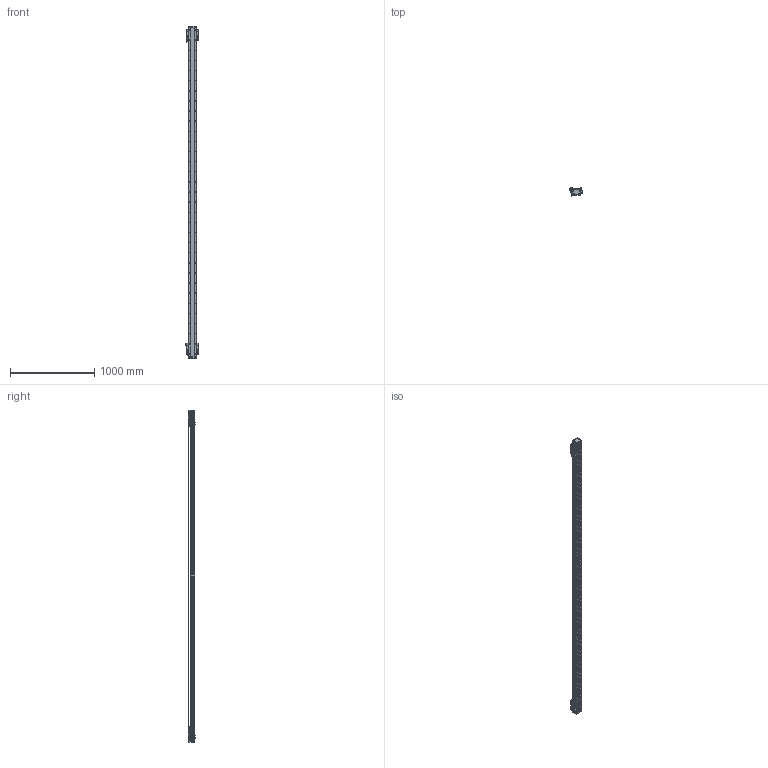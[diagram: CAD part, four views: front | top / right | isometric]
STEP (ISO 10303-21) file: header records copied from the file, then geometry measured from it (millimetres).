
FILE_DESCRIPTION (( 'STEP AP203' ), '1' );
FILE_NAME ('DA-B95-2-B15-T3560-C010-0.2 直线电机.STEP', '2023-05-06T06:50:56', ( '微软用户' ), ( '微软中国' ), 'SwSTEP 2.0', 'SolidWorks 2019', '' );
FILE_SCHEMA (( 'CONFIG_CONTROL_DESIGN' ));
Length unit declared in the file: millimetre
Products named in the file (34): 66245-BU95-V 幗紩賑怢; 葩璃 PM-Y45^DA-A95-B15-T-C010-0.2-N 眻盄萇儂; PM-T45 光电开关^DA-A95-B15-T-C010-0.2-N 直线电机; 复件 DA95-MFP-01 密封片^66245-BU95-V 滚珠滑台; 复件 DA95-DK-00 挡块^66245-BU95-V 滚珠滑台; 复件 DA95-B15 钢带盖板^DA-A95-B15-T-C010-0.2-N 直线电机; DA-A95-GYP-00 光电感应片^DA-A95-B15-T-C010-0.2-N 直线电机; 葩璃 DA95-B15-DP-A-00 菜えA^66245-BU95-V 幗紩賑怢; 复件 DA95-HK-GT-00 滑块钢轨^66245-BU95-V-00 一体化滑动台板; IU-BU95-L 菁釱絳寢; 66245-BU95-V-00 珨极趙賑雄怢啣; DA-B95-2-B15-T3560-C010-0.2 眻盄萇儂; 复件 复件 18252-0001-004-00 钢带端盖^DA-A95-B15-T-C010-0.2-N 直线电机; 复件 DKW-HXJ-JY-00 缓冲橡胶^DA-A95-B15-T-C010-0.2-N 直线电机; LMDK-2-R001-V5-L02-C1-F00，0.2M 读数头^DA-A95-B15-T-C010-0.2-N 直线电机_DMA-010-0.2; 复件 DA95-B15-YB-B-00 压板B^66245-BU95-V 滚珠滑台; B15 XD-U-02L ｴﾅﾕ､ｳﾟ^DA-A95-B15-T-C010-0.2-N ﾖｱﾏﾟｵ扈銈XD-U-02L; 复件 66245-BU95-HT-V-01 滑动台板^66245-BU95-V-00 一体化滑动台板; 复件 DKW-KGZ-ZJ-00 中间光电开关支架^DA-A95-B15-T-C010-0.2-N 直线电机; 复件 DKW-GYP-ZJ-00 中间光电感应片^DA-A95-B15-T-C010-0.2-N 直线电机; 复件 六角薄螺母 M3^DA-A95-B15-T-C010-0.2-N 直线电机_GB_FASTENER_NUT_STNAB M3-C; 葩璃 DA95-GT-T-00^IU-BU95-L 菁釱絳寢_DA95; 复件 复件 18252-0001-003-00 钢带拉块^DA-A95-B15-T-C010-0.2-N 直线电机; 葩璃 BKMA01-W060-TRL^DA-A95-B15-T-C010-0.2-N 眻盄萇儂; 复件 DA95-DB-00  挡板^66245-BU95-V 滚珠滑台; DA95-HXJ-00 缓冲橡胶^DA-A95-B15-T-C010-0.2-N 直线电机; 葩璃 BKM015-W060-C1-TP-DA-0.2^DA-A95-B15-T-C010-0.2-N 眻盄萇儂; 复件 复件 18252-0001-002-00 钢带垫块^DA-A95-B15-T-C010-0.2-N 直线电机; 复件 纯铜油杯 6x6mm^66245-BU95-V 滚珠滑台; 葩璃 DA95-B15-DP--B-00 菜えB^66245-BU95-V 幗紩賑怢; 复件 DA95-B15-YB-A-00 压板A^66245-BU95-V 滚珠滑台; IU-BU95-L-00 菁釱_L3900
Assembly tree (80 placements, depth 4):
  DA-B95-2-B15-T3560-C010-0.2 眻盄萇儂
    IU-BU95-L 菁釱絳寢
      IU-BU95-L-00 菁釱_L3900
      葩璃 DA95-GT-T-00^IU-BU95-L 菁釱絳寢_DA95  x2
    66245-BU95-V 幗紩賑怢
      66245-BU95-V-00 珨极趙賑雄怢啣
        复件 66245-BU95-HT-V-01 滑动台板^66245-BU95-V-00 一体化滑动台板
        复件 DA95-HK-GT-00 滑块钢轨^66245-BU95-V-00 一体化滑动台板  x2
      葩璃 DA95-B15-DP-A-00 菜えA^66245-BU95-V 幗紩賑怢
      复件 DA95-B15-YB-A-00 压板A^66245-BU95-V 滚珠滑台
      复件 DA95-B15-YB-B-00 压板B^66245-BU95-V 滚珠滑台
      复件 DA95-DB-00  挡板^66245-BU95-V 滚珠滑台  x4
      复件 DA95-DK-00 挡块^66245-BU95-V 滚珠滑台  x2
      复件 DA95-MFP-01 密封片^66245-BU95-V 滚珠滑台  x4
      复件 纯铜油杯 6x6mm^66245-BU95-V 滚珠滑台  x2
      葩璃 DA95-B15-DP--B-00 菜えB^66245-BU95-V 幗紩賑怢
    66245-BU95-V 幗紩賑怢
      66245-BU95-V-00 珨极趙賑雄怢啣
        复件 66245-BU95-HT-V-01 滑动台板^66245-BU95-V-00 一体化滑动台板
        复件 DA95-HK-GT-00 滑块钢轨^66245-BU95-V-00 一体化滑动台板  x2
      葩璃 DA95-B15-DP-A-00 菜えA^66245-BU95-V 幗紩賑怢
      复件 DA95-B15-YB-A-00 压板A^66245-BU95-V 滚珠滑台
      复件 DA95-B15-YB-B-00 压板B^66245-BU95-V 滚珠滑台
      复件 DA95-DB-00  挡板^66245-BU95-V 滚珠滑台  x4
      复件 DA95-DK-00 挡块^66245-BU95-V 滚珠滑台  x2
      复件 DA95-MFP-01 密封片^66245-BU95-V 滚珠滑台  x4
      复件 纯铜油杯 6x6mm^66245-BU95-V 滚珠滑台  x2
      葩璃 DA95-B15-DP--B-00 菜えB^66245-BU95-V 幗紩賑怢
    DA-A95-GYP-00 光电感应片^DA-A95-B15-T-C010-0.2-N 直线电机  x2
    LMDK-2-R001-V5-L02-C1-F00，0.2M 读数头^DA-A95-B15-T-C010-0.2-N 直线电机_DMA-010-0.2  x2
    复件 DKW-KGZ-ZJ-00 中间光电开关支架^DA-A95-B15-T-C010-0.2-N 直线电机
    葩璃 PM-Y45^DA-A95-B15-T-C010-0.2-N 眻盄萇儂
    复件 DKW-GYP-ZJ-00 中间光电感应片^DA-A95-B15-T-C010-0.2-N 直线电机
    葩璃 BKM015-W060-C1-TP-DA-0.2^DA-A95-B15-T-C010-0.2-N 眻盄萇儂  x2
    复件 DKW-HXJ-JY-00 缓冲橡胶^DA-A95-B15-T-C010-0.2-N 直线电机  x2
    PM-T45 光电开关^DA-A95-B15-T-C010-0.2-N 直线电机  x4
    B15 XD-U-02L ｴﾅﾕ､ｳﾟ^DA-A95-B15-T-C010-0.2-N ﾖｱﾏﾟｵ扈銈XD-U-02L
    复件 复件 18252-0001-003-00 钢带拉块^DA-A95-B15-T-C010-0.2-N 直线电机  x2
    复件 复件 18252-0001-002-00 钢带垫块^DA-A95-B15-T-C010-0.2-N 直线电机  x2
    复件 复件 18252-0001-004-00 钢带端盖^DA-A95-B15-T-C010-0.2-N 直线电机  x2
    复件 DA95-B15 钢带盖板^DA-A95-B15-T-C010-0.2-N 直线电机
    DA95-HXJ-00 缓冲橡胶^DA-A95-B15-T-C010-0.2-N 直线电机  x4
    葩璃 BKMA01-W060-TRL^DA-A95-B15-T-C010-0.2-N 眻盄萇儂
    复件 六角薄螺母 M3^DA-A95-B15-T-C010-0.2-N 直线电机_GB_FASTENER_NUT_STNAB M3-C  x6
Bounding box: 145.4 x 90.2 x 3936 mm (x, y, z)
Volume: 12087981.5 mm3; surface area: 4062791.6 mm2
Topology: 75 solids, 93 shells, 4808 faces, 14068 edges, 8991 vertices
Faces by surface type: cylinder 2621, plane 1655, cone 464, torus 64, sphere 4
Entity records: 131212 total; most frequent: CARTESIAN_POINT 36974, ORIENTED_EDGE 19494, DIRECTION 18280, EDGE_CURVE 9747, AXIS2_PLACEMENT_3D 7017, VERTEX_POINT 6393, VECTOR 4246, LINE 4246
